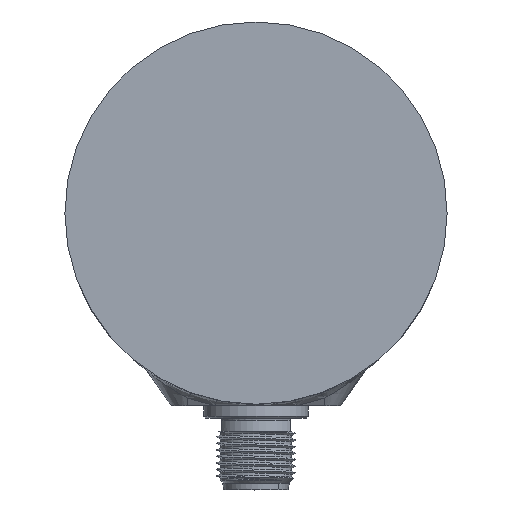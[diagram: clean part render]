
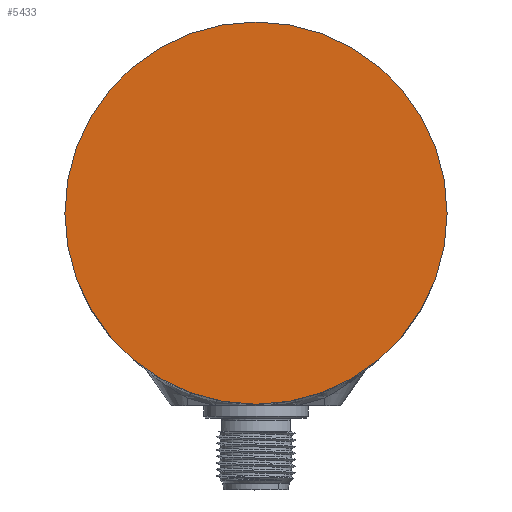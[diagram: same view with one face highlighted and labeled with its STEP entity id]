
A CAD part, top view. The second image highlights one B-rep face of the part: STEP entity #5433.
In plain terms, the highlighted planar face has unit normal (0, 0, 1).
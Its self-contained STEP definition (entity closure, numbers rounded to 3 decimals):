
#5433 = ADVANCED_FACE ( 'NONE', ( #13001 ), #13000, .T. ) ;
#5434 = EDGE_LOOP ( 'NONE', ( #5435, #5436 ) ) ;
#5435 = ORIENTED_EDGE ( 'NONE', *, *, #5520, .T. ) ;
#5436 = ORIENTED_EDGE ( 'NONE', *, *, #5582, .T. ) ;
#5520 = EDGE_CURVE ( 'NONE', #5583, #5556, #13208, .T. ) ;
#5556 = VERTEX_POINT ( 'NONE', #13356 ) ;
#5582 = EDGE_CURVE ( 'NONE', #5556, #5583, #13419, .T. ) ;
#5583 = VERTEX_POINT ( 'NONE', #13403 ) ;
#12952 = DIRECTION ( 'NONE',  ( -1., 0., 0. ) ) ;
#12953 = DIRECTION ( 'NONE',  ( 0., 0., 1. ) ) ;
#12998 = CARTESIAN_POINT ( 'NONE',  ( 0., 0., 43.2 ) ) ;
#12999 = AXIS2_PLACEMENT_3D ( 'NONE', #12998, #12953, #12952 ) ;
#13000 = PLANE ( 'NONE',  #12999 ) ;
#13001 = FACE_OUTER_BOUND ( 'NONE', #5434, .T. ) ;
#13205 = DIRECTION ( 'NONE',  ( -1., 0., 0. ) ) ;
#13206 = DIRECTION ( 'NONE',  ( 0., 0., 1. ) ) ;
#13207 = AXIS2_PLACEMENT_3D ( 'NONE', #13213, #13206, #13205 ) ;
#13208 = CIRCLE ( 'NONE', #13207, 29.3 ) ;
#13213 = CARTESIAN_POINT ( 'NONE',  ( 0., 0., 43.2 ) ) ;
#13356 = CARTESIAN_POINT ( 'NONE',  ( -29.3, 0., 43.2 ) ) ;
#13403 = CARTESIAN_POINT ( 'NONE',  ( 29.3, 0., 43.2 ) ) ;
#13404 = DIRECTION ( 'NONE',  ( -1., 0., 0. ) ) ;
#13405 = DIRECTION ( 'NONE',  ( 0., 0., 1. ) ) ;
#13406 = AXIS2_PLACEMENT_3D ( 'NONE', #13420, #13405, #13404 ) ;
#13419 = CIRCLE ( 'NONE', #13406, 29.3 ) ;
#13420 = CARTESIAN_POINT ( 'NONE',  ( 0., 0., 43.2 ) ) ;
